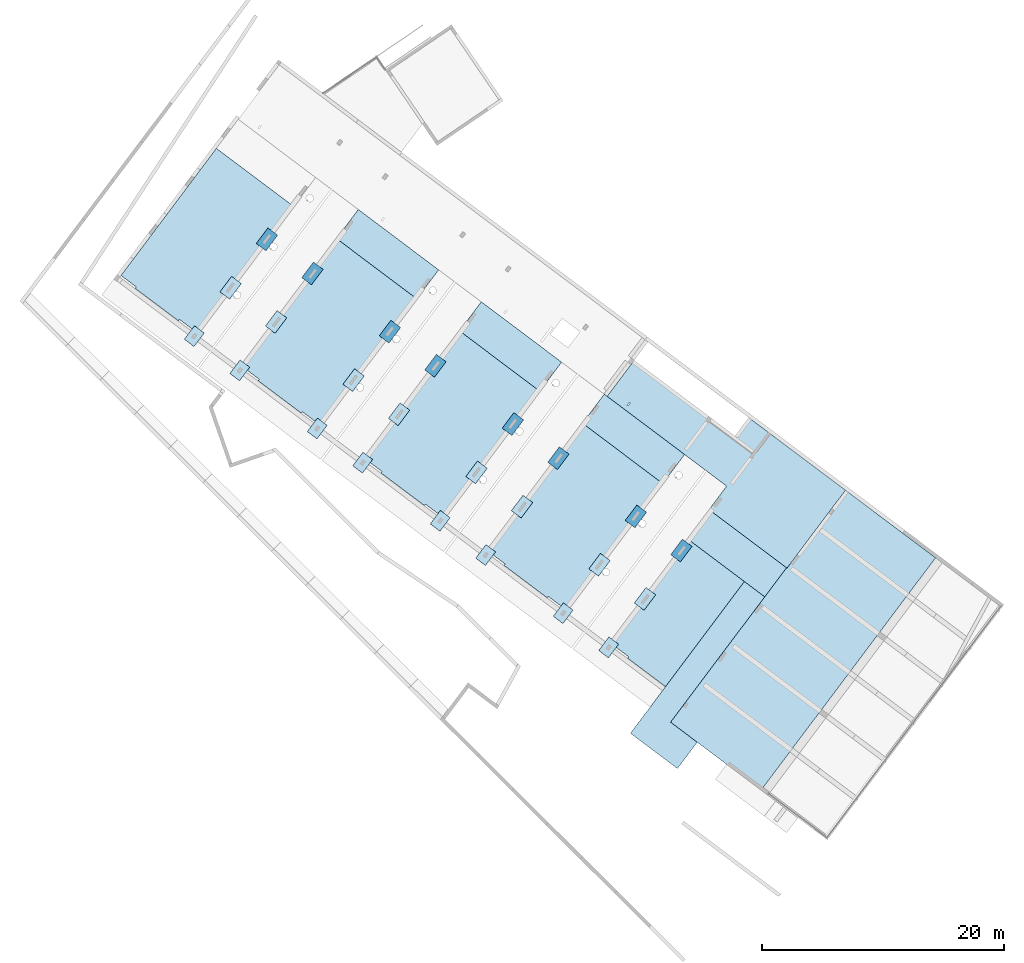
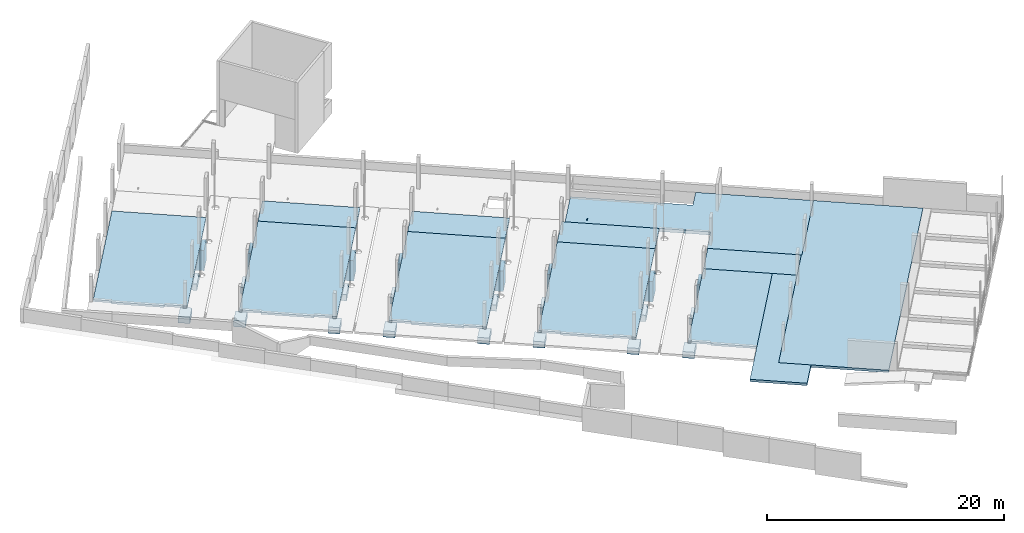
# One storey, part 20 of 24: 36 slabs, 1 opening.
"""IFC2X3 building model written with IfcOpenShell, lengths in metres."""

from ifc_helpers import new_model, entity, si_unit, converted_unit, derived_unit, direction, frame, frame_2d, origin, origin_2d_with_axis, place, context, subcontext, project, spatial, polyline, rectangle, outline, extrude, material, layer, layer_set, layer_usage, type_object, element, save


model = new_model("IFC2X3")

# Units and contexts
model_context = context("Model", 3, precision=1e-05, world=origin(), true_north=direction((6.123031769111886e-17, 1.0)))
body_context = subcontext(model_context, "Body", "Model", "MODEL_VIEW")
ifc_project = project(units=[si_unit("LENGTHUNIT", "METRE"), si_unit("AREAUNIT", "SQUARE_METRE"), si_unit("VOLUMEUNIT", "CUBIC_METRE"), converted_unit("PLANEANGLEUNIT", "DEGREE", entity("IfcRatioMeasure", 0.017453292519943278), si_unit("PLANEANGLEUNIT", "RADIAN"), dimensions=[0, 0, 0, 0, 0, 0, 0]), si_unit("MASSUNIT", "GRAM", prefix="KILO"), derived_unit("MASSDENSITYUNIT", [(si_unit("MASSUNIT", "GRAM", prefix="KILO"), 1), (si_unit("LENGTHUNIT", "METRE"), -3)]), derived_unit("IONCONCENTRATIONUNIT", [(si_unit("MASSUNIT", "GRAM", prefix="KILO"), 1), (si_unit("LENGTHUNIT", "METRE"), -3)]), derived_unit("MOMENTOFINERTIAUNIT", [(si_unit("LENGTHUNIT", "METRE"), 4)]), si_unit("TIMEUNIT", "SECOND"), si_unit("FREQUENCYUNIT", "HERTZ"), si_unit("THERMODYNAMICTEMPERATUREUNIT", "DEGREE_CELSIUS"), derived_unit("THERMALTRANSMITTANCEUNIT", [(si_unit("MASSUNIT", "GRAM", prefix="KILO"), 1), (si_unit("THERMODYNAMICTEMPERATUREUNIT", "KELVIN"), -1), (si_unit("TIMEUNIT", "SECOND"), -3)]), derived_unit("THERMALCONDUCTANCEUNIT", [(si_unit("MASSUNIT", "GRAM", prefix="KILO"), 1), (si_unit("THERMODYNAMICTEMPERATUREUNIT", "KELVIN"), -1), (si_unit("TIMEUNIT", "SECOND"), -3), (si_unit("LENGTHUNIT", "METRE"), 1)]), derived_unit("VOLUMETRICFLOWRATEUNIT", [(si_unit("LENGTHUNIT", "METRE"), 3), (si_unit("TIMEUNIT", "SECOND"), -1)]), derived_unit("MASSFLOWRATEUNIT", [(si_unit("MASSUNIT", "GRAM", prefix="KILO"), 1), (si_unit("TIMEUNIT", "SECOND"), -1)]), derived_unit("ROTATIONALFREQUENCYUNIT", [(si_unit("TIMEUNIT", "SECOND"), -1)]), si_unit("ELECTRICCURRENTUNIT", "AMPERE"), si_unit("ELECTRICVOLTAGEUNIT", "VOLT"), si_unit("POWERUNIT", "WATT"), si_unit("FORCEUNIT", "NEWTON", prefix="KILO"), si_unit("ILLUMINANCEUNIT", "LUX"), si_unit("LUMINOUSFLUXUNIT", "LUMEN"), si_unit("LUMINOUSINTENSITYUNIT", "CANDELA"), derived_unit("USERDEFINED", [(si_unit("MASSUNIT", "GRAM", prefix="KILO"), -1), (si_unit("LENGTHUNIT", "METRE"), -2), (si_unit("TIMEUNIT", "SECOND"), 3), (si_unit("LUMINOUSFLUXUNIT", "LUMEN"), 1)]), derived_unit("USERDEFINED", [(si_unit("MASSUNIT", "GRAM", prefix="KILO"), 1), (si_unit("TIMEUNIT", "SECOND"), -3), (si_unit("LENGTHUNIT", "METRE"), 3), (si_unit("ELECTRICCURRENTUNIT", "AMPERE"), -2)]), derived_unit("SOUNDPOWERUNIT", [(si_unit("MASSUNIT", "GRAM", prefix="KILO"), 1), (si_unit("TIMEUNIT", "SECOND"), -3), (si_unit("LENGTHUNIT", "METRE"), 2)]), derived_unit("SOUNDPRESSUREUNIT", [(si_unit("MASSUNIT", "GRAM", prefix="KILO"), 1), (si_unit("LENGTHUNIT", "METRE"), -1), (si_unit("TIMEUNIT", "SECOND"), -2)]), derived_unit("LINEARVELOCITYUNIT", [(si_unit("LENGTHUNIT", "METRE"), 1), (si_unit("TIMEUNIT", "SECOND"), -1)]), si_unit("PRESSUREUNIT", "PASCAL"), derived_unit("USERDEFINED", [(si_unit("MASSUNIT", "GRAM", prefix="KILO"), 1), (si_unit("LENGTHUNIT", "METRE"), -2), (si_unit("TIMEUNIT", "SECOND"), -2)]), derived_unit("LINEARFORCEUNIT", [(si_unit("MASSUNIT", "GRAM", prefix="KILO"), 1), (si_unit("TIMEUNIT", "SECOND"), -2)]), derived_unit("PLANARFORCEUNIT", [(si_unit("MASSUNIT", "GRAM", prefix="KILO"), 1), (si_unit("LENGTHUNIT", "METRE"), -1), (si_unit("TIMEUNIT", "SECOND"), -2)]), derived_unit("SPECIFICHEATCAPACITYUNIT", [(si_unit("THERMODYNAMICTEMPERATUREUNIT", "KELVIN"), -1), (si_unit("LENGTHUNIT", "METRE"), 2), (si_unit("TIMEUNIT", "SECOND"), -2)]), derived_unit("HEATINGVALUEUNIT", [(si_unit("LENGTHUNIT", "METRE"), 2), (si_unit("TIMEUNIT", "SECOND"), -2)]), derived_unit("VAPORPERMEABILITYUNIT", [(si_unit("LENGTHUNIT", "METRE"), -1), (si_unit("TIMEUNIT", "SECOND"), 1)]), derived_unit("DYNAMICVISCOSITYUNIT", [(si_unit("MASSUNIT", "GRAM", prefix="KILO"), 1), (si_unit("TIMEUNIT", "SECOND"), -1), (si_unit("LENGTHUNIT", "METRE"), -1)]), derived_unit("THERMALEXPANSIONCOEFFICIENTUNIT", [(si_unit("THERMODYNAMICTEMPERATUREUNIT", "KELVIN"), -1)]), derived_unit("MODULUSOFELASTICITYUNIT", [(si_unit("MASSUNIT", "GRAM", prefix="KILO"), 1), (si_unit("LENGTHUNIT", "METRE"), -1), (si_unit("TIMEUNIT", "SECOND"), -2)]), derived_unit("ISOTHERMALMOISTURECAPACITYUNIT", [(si_unit("LENGTHUNIT", "METRE"), 3), (si_unit("MASSUNIT", "GRAM", prefix="KILO"), -1)]), derived_unit("MOISTUREDIFFUSIVITYUNIT", [(si_unit("TIMEUNIT", "SECOND"), -1), (si_unit("LENGTHUNIT", "METRE"), 2)])], contexts=[model_context])

# Site, building, storey
site_placement = place(None, origin())
site = spatial("IfcSite", under=ifc_project, at=site_placement, Name="Default", CompositionType="ELEMENT")
building_placement = place(site_placement, frame((0.0, 0.0, 235.0), z_axis=(0.0, 0.0, 1.0), x_axis=(-0.7996477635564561, 0.6004693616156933, 0.0)))
building = spatial("IfcBuilding", under=site, at=building_placement, CompositionType="ELEMENT")
storey_placement = place(building_placement, origin())
storey = spatial("IfcBuildingStorey", under=building, at=storey_placement, Name="P0- Escola", CompositionType="ELEMENT", Elevation=0.0)

# Slab, opening
ifc_material_1 = material(Name="_Formigó- T1- STR")
ifc_layer_1 = layer(ifc_material_1, 0.32)
ifc_layer_set_1 = layer_set([ifc_layer_1], Name="Suelo:STR- L- Formigó- Llosa- T1- 32 cm")
ifc_layer_usage_1 = layer_usage(ifc_layer_set_1, "AXIS3", "POSITIVE", 0.0)
slab_type_1 = type_object("IfcSlabType", Name="Suelo:STR- L- Formigó- Llosa- T1- 32 cm", PredefinedType="FLOOR", material=ifc_layer_set_1)
slab_1_placement = place(storey_placement, frame((15.945147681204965, -42.04019175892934, -0.52)))
slab_1 = element("IfcSlab", 1, at=slab_1_placement, inside=storey, type_object=slab_type_1, material=ifc_layer_usage_1, Name="Suelo:STR- L- Formigó- Llosa- T1- 32 cm", ObjectType="Suelo:STR- L- Formigó- Llosa- T1- 32 cm", PredefinedType="FLOOR", context=body_context, shape_type="SweptSolid", body=[
    extrude(outline(polyline([(10.199999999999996, 4.0254939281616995), (2.1503421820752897, 4.025493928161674), (2.150342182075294, 1.5995060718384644), (-10.200000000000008, 1.599506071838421), (-10.200000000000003, -2.125493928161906), (0.20000000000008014, -2.12549392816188), (0.20000000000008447, -4.025493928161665), (10.199999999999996, -4.02549392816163), (10.199999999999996, 4.0254939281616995)])), frame((10.2, 4.025493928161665, 0.32), z_axis=(0.0, 0.0, -1.0), x_axis=(-1.0, 0.0, 0.0)), (0.0, 0.0, 1.0), 0.32),
])
opening_placement = place(slab_1_placement, origin())
element("IfcOpeningElement", 2, at=opening_placement, cuts=slab_1, Name="Suelo:STR- L- Formigó- Llosa- T1- 32 cm", ObjectType="Opening", context=body_context, shape_type="SweptSolid", body=[
    extrude(rectangle(XDim=0.08500000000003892, YDim=0.3000000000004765, at=frame_2d((0.0, 2.1649348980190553e-15), x_axis=(1.0, 0.0))), frame((18.59127795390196, 5.067860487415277, 0.32), z_axis=(0.0, 0.0, -1.0), x_axis=(1.0, -8.103684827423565e-07, 0.0)), (0.0, 0.0, 1.0), 0.31999999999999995),
])

# Slabs
ifc_layer_2 = layer(ifc_material_1, 0.24)
ifc_layer_set_2 = layer_set([ifc_layer_2], Name="Suelo:STR- L- Formigó- Llosa- T1- 24 cm")
ifc_layer_usage_2 = layer_usage(ifc_layer_set_2, "AXIS3", "POSITIVE", 0.0)
slab_type_2 = type_object("IfcSlabType", Name="Suelo:STR- L- Formigó- Llosa- T1- 24 cm", PredefinedType="FLOOR", material=ifc_layer_set_2)
slab_2_placement = place(storey_placement, origin())
element("IfcSlab", 3, at=slab_2_placement, inside=storey, type_object=slab_type_2, material=ifc_layer_usage_2, Name="Suelo:STR- L- Formigó- Llosa- T1- 24 cm", ObjectType="Suelo:STR- L- Formigó- Llosa- T1- 24 cm", PredefinedType="FLOOR", context=body_context, shape_type="SweptSolid", body=[
    extrude(outline(polyline([(-10.683662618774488, -6.216666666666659), (13.316337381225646, -6.216666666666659), (13.316337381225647, 3.1333333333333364), (-2.6326747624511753, 3.1333333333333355), (-2.6326747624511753, 3.083333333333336), (-10.683662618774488, 3.0833333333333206), (-10.683662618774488, -6.216666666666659)])), frame((12.86181434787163, -31.356529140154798, -0.2), z_axis=(0.0, 0.0, -1.0), x_axis=(0.0, 1.0, 0.0)), (0.0, 0.0, 1.0), 0.24),
])
ifc_material_2 = material(Name="_Formigó- Solera- T1- STR")
ifc_layer_3 = layer(ifc_material_2, 0.2)
ifc_layer_set_3 = layer_set([ifc_layer_3], Name="Suelo:STR- L- Formigó- Solera- T1- 20 cm")
ifc_layer_usage_3 = layer_usage(ifc_layer_set_3, "AXIS3", "POSITIVE", 0.0)
slab_type_3 = type_object("IfcSlabType", Name="Suelo:STR- L- Formigó- Solera- T1- 20 cm", PredefinedType="FLOOR", material=ifc_layer_set_3)
slab_3_placement = place(storey_placement, origin())
element("IfcSlab", 4, at=slab_3_placement, inside=storey, type_object=slab_type_3, material=ifc_layer_usage_3, Name="Suelo:STR- L- Formigó- Solera- T1- 20 cm", ObjectType="Suelo:STR- L- Formigó- Solera- T1- 20 cm", PredefinedType="FLOOR", context=body_context, shape_type="SweptSolid", body=[
    extrude(outline(polyline([(-7.184341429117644, -3.2500000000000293), (3.664670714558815, -3.2500000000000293), (3.664670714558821, 0.650000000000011), (3.519670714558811, 0.6500000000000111), (3.519670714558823, 2.60000000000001), (-7.184341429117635, 2.6000000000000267), (-7.184341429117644, -3.2500000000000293)])), frame((21.34514768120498, -23.80486247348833, -0.2), z_axis=(0.0, 0.0, -1.0), x_axis=(0.0, 1.0, 0.0)), (0.0, 0.0, 1.0), 0.2),
])
slab_4_placement = place(storey_placement, origin())
element("IfcSlab", 5, at=slab_4_placement, inside=storey, type_object=slab_type_3, material=ifc_layer_usage_3, Name="Suelo:STR- L- Formigó- Solera- T1- 20 cm", ObjectType="Suelo:STR- L- Formigó- Solera- T1- 20 cm", PredefinedType="FLOOR", context=body_context, shape_type="SweptSolid", body=[
    extrude(outline(polyline([(-9.88374999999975, -4.1687500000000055), (3.246249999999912, -4.1687500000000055), (3.2462499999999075, -2.2137500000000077), (3.3912499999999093, -2.2137500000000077), (3.3912499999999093, 2.2512499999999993), (3.2462499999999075, 2.2512499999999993), (3.2462499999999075, 4.131249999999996), (-9.88374999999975, 4.131249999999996), (-9.88374999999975, -4.1687500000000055)])), frame((32.51389768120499, -23.53144175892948, -0.2), z_axis=(0.0, 0.0, -1.0), x_axis=(0.0, 1.0, 0.0)), (0.0, 0.0, 1.0), 0.2),
])
slab_5_placement = place(storey_placement, origin())
element("IfcSlab", 6, at=slab_5_placement, inside=storey, type_object=slab_type_3, material=ifc_layer_usage_3, Name="Suelo:STR- L- Formigó- Solera- T1- 20 cm", ObjectType="Suelo:STR- L- Formigó- Solera- T1- 20 cm", PredefinedType="FLOOR", context=body_context, shape_type="SweptSolid", body=[
    extrude(outline(polyline([(-9.883749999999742, -4.168750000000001), (3.246249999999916, -4.168750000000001), (3.246249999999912, -2.2137500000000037), (3.3912499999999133, -2.2137500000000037), (3.3912499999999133, 2.2512500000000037), (3.246249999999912, 2.2512500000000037), (3.246249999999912, 4.1312500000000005), (-9.883749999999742, 4.1312500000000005), (-9.883749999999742, -4.168750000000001)])), frame((45.21389768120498, -23.531441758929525, -0.2), z_axis=(0.0, 0.0, -1.0), x_axis=(0.0, 1.0, 0.0)), (0.0, 0.0, 1.0), 0.2),
])
slab_6_placement = place(storey_placement, origin())
element("IfcSlab", 7, at=slab_6_placement, inside=storey, type_object=slab_type_3, material=ifc_layer_usage_3, Name="Suelo:STR- L- Formigó- Solera- T1- 20 cm", ObjectType="Suelo:STR- L- Formigó- Solera- T1- 20 cm", PredefinedType="FLOOR", context=body_context, shape_type="SweptSolid", body=[
    extrude(outline(polyline([(-9.883749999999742, -4.168750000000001), (3.246249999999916, -4.168750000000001), (3.246249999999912, -2.2137500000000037), (3.3912499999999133, -2.2137500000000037), (3.3912499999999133, 2.2512500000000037), (3.246249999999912, 2.2512500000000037), (3.246249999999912, 4.1312500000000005), (-9.883749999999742, 4.1312500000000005), (-9.883749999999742, -4.168750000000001)])), frame((57.91389768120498, -23.531441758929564, -0.2), z_axis=(0.0, 0.0, -1.0), x_axis=(0.0, 1.0, 0.0)), (0.0, 0.0, 1.0), 0.2),
])
slab_7_placement = place(storey_placement, origin())
element("IfcSlab", 8, at=slab_7_placement, inside=storey, type_object=slab_type_3, material=ifc_layer_usage_3, Name="Suelo:STR- L- Formigó- Solera- T1- 20 cm", ObjectType="Suelo:STR- L- Formigó- Solera- T1- 20 cm", PredefinedType="FLOOR", context=body_context, shape_type="SweptSolid", body=[
    extrude(outline(polyline([(-9.883749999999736, -4.093749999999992), (3.2462499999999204, -4.093749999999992), (3.246249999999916, -2.1387499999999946), (3.3912499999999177, -2.1387499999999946), (3.3912499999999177, 2.326250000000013), (3.246249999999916, 2.326250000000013), (3.246249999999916, 3.9062500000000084), (-9.883749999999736, 3.9062500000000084), (-9.883749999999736, -4.093749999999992)])), frame((70.53889768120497, -23.531441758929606, -0.2), z_axis=(0.0, 0.0, -1.0), x_axis=(0.0, 1.0, 0.0)), (0.0, 0.0, 1.0), 0.2),
])
slab_type_4 = type_object("IfcSlabType", Name="STR- S- Formigó- Rectangular- T1:100x140x60 cm", PredefinedType="BASESLAB", material=ifc_material_1)
slab_8_placement = place(storey_placement, frame((23.295147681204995, -20.615191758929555, -1.219999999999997)))
element("IfcSlab", 9, at=slab_8_placement, inside=storey, type_object=slab_type_4, Name="STR- S- Formigó- Rectangular- T1:100x140x60 cm", ObjectType="STR- S- Formigó- Rectangular- T1:100x140x60 cm", PredefinedType="BASESLAB", context=body_context, shape_type="SweptSolid", body=[
    extrude(rectangle(XDim=0.9999999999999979, YDim=1.399999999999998, at=frame_2d((0.0, -0.13999999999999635), x_axis=(1.0, 0.0))), frame((0.49999999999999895, 0.5599999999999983, 0.049999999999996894), z_axis=(0.0, 0.0, 1.0), x_axis=(-1.0, 0.0, 0.0)), (0.0, 0.0, 1.0), 0.6),
    extrude(rectangle(XDim=0.9999999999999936, YDim=1.3999999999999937, at=frame_2d((2.1649348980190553e-15, 0.13999999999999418), x_axis=(1.0, 0.0))), frame((0.49999999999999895, 0.5600000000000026, 0.0)), (0.0, 0.0, 1.0), 0.04999999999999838),
])
slab_9_placement = place(storey_placement, frame((35.99514768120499, -20.615191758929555, -1.219999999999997)))
element("IfcSlab", 10, at=slab_9_placement, inside=storey, type_object=slab_type_4, Name="STR- S- Formigó- Rectangular- T1:100x140x60 cm", ObjectType="STR- S- Formigó- Rectangular- T1:100x140x60 cm", PredefinedType="BASESLAB", context=body_context, shape_type="SweptSolid", body=[
    extrude(rectangle(XDim=0.9999999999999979, YDim=1.399999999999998, at=frame_2d((0.0, -0.14000000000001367), x_axis=(1.0, 0.0))), frame((0.49999999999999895, 0.559999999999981, 0.049999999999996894), z_axis=(0.0, 0.0, 1.0), x_axis=(-1.0, 0.0, 0.0)), (0.0, 0.0, 1.0), 0.6),
    extrude(rectangle(XDim=0.9999999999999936, YDim=1.3999999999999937, at=frame_2d((2.1649348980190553e-15, 0.14000000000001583), x_axis=(1.0, 0.0))), frame((0.49999999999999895, 0.559999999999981, 0.0)), (0.0, 0.0, 1.0), 0.04999999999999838),
])
slab_10_placement = place(storey_placement, frame((40.69514768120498, -20.615191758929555, -1.219999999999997)))
element("IfcSlab", 11, at=slab_10_placement, inside=storey, type_object=slab_type_4, Name="STR- S- Formigó- Rectangular- T1:100x140x60 cm", ObjectType="STR- S- Formigó- Rectangular- T1:100x140x60 cm", PredefinedType="BASESLAB", context=body_context, shape_type="SweptSolid", body=[
    extrude(rectangle(XDim=0.9999999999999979, YDim=1.399999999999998, at=frame_2d((0.0, -0.14000000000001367), x_axis=(1.0, 0.0))), frame((0.49999999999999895, 0.559999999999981, 0.049999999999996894), z_axis=(0.0, 0.0, 1.0), x_axis=(-1.0, 0.0, 0.0)), (0.0, 0.0, 1.0), 0.6),
    extrude(rectangle(XDim=0.9999999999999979, YDim=1.3999999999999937, at=frame_2d((0.0, 0.14000000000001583), x_axis=(1.0, 0.0))), frame((0.49999999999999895, 0.559999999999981, 0.0)), (0.0, 0.0, 1.0), 0.04999999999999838),
])
slab_11_placement = place(storey_placement, frame((48.69514768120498, -20.615191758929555, -1.219999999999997)))
element("IfcSlab", 12, at=slab_11_placement, inside=storey, type_object=slab_type_4, Name="STR- S- Formigó- Rectangular- T1:100x140x60 cm", ObjectType="STR- S- Formigó- Rectangular- T1:100x140x60 cm", PredefinedType="BASESLAB", context=body_context, shape_type="SweptSolid", body=[
    extrude(rectangle(XDim=0.999999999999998, YDim=1.399999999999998, at=frame_2d((8.68749516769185e-15, -0.14000000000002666), x_axis=(1.0, 0.0))), frame((0.5000000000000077, 0.559999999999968, 0.049999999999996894), z_axis=(0.0, 0.0, 1.0), x_axis=(-1.0, 0.0, 0.0)), (0.0, 0.0, 1.0), 0.6),
    extrude(rectangle(XDim=0.999999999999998, YDim=1.3999999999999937, at=frame_2d((8.68749516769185e-15, 0.14000000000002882), x_axis=(1.0, 0.0))), frame((0.4999999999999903, 0.559999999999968, 0.0)), (0.0, 0.0, 1.0), 0.04999999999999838),
])
slab_12_placement = place(storey_placement, frame((53.39514768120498, -20.615191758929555, -1.219999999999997)))
element("IfcSlab", 13, at=slab_12_placement, inside=storey, type_object=slab_type_4, Name="STR- S- Formigó- Rectangular- T1:100x140x60 cm", ObjectType="STR- S- Formigó- Rectangular- T1:100x140x60 cm", PredefinedType="BASESLAB", context=body_context, shape_type="SweptSolid", body=[
    extrude(rectangle(XDim=0.9999999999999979, YDim=1.399999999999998, at=frame_2d((0.0, -0.140000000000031), x_axis=(1.0, 0.0))), frame((0.49999999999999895, 0.5599999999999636, 0.049999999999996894), z_axis=(0.0, 0.0, 1.0), x_axis=(-1.0, 0.0, 0.0)), (0.0, 0.0, 1.0), 0.6),
    extrude(rectangle(XDim=0.9999999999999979, YDim=1.3999999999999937, at=frame_2d((0.0, 0.14000000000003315), x_axis=(1.0, 0.0))), frame((0.49999999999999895, 0.5599999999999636, 0.0)), (0.0, 0.0, 1.0), 0.04999999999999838),
])
slab_13_placement = place(storey_placement, frame((61.39514768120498, -20.615191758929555, -1.219999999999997)))
element("IfcSlab", 14, at=slab_13_placement, inside=storey, type_object=slab_type_4, Name="STR- S- Formigó- Rectangular- T1:100x140x60 cm", ObjectType="STR- S- Formigó- Rectangular- T1:100x140x60 cm", PredefinedType="BASESLAB", context=body_context, shape_type="SweptSolid", body=[
    extrude(rectangle(XDim=0.999999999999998, YDim=1.399999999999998, at=frame_2d((-8.68749516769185e-15, -0.14000000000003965), x_axis=(1.0, 0.0))), frame((0.4999999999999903, 0.559999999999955, 0.049999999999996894), z_axis=(0.0, 0.0, 1.0), x_axis=(-1.0, 0.0, 0.0)), (0.0, 0.0, 1.0), 0.6),
    extrude(rectangle(XDim=0.9999999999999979, YDim=1.3999999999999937, at=frame_2d((0.0, 0.14000000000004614), x_axis=(1.0, 0.0))), frame((0.49999999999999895, 0.5599999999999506, 0.0)), (0.0, 0.0, 1.0), 0.04999999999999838),
])
slab_14_placement = place(storey_placement, frame((66.09514768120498, -20.615191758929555, -1.219999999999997)))
element("IfcSlab", 15, at=slab_14_placement, inside=storey, type_object=slab_type_4, Name="STR- S- Formigó- Rectangular- T1:100x140x60 cm", ObjectType="STR- S- Formigó- Rectangular- T1:100x140x60 cm", PredefinedType="BASESLAB", context=body_context, shape_type="SweptSolid", body=[
    extrude(rectangle(XDim=0.999999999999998, YDim=1.399999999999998, at=frame_2d((8.68749516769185e-15, -0.1400000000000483), x_axis=(1.0, 0.0))), frame((0.5000000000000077, 0.5599999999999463, 0.049999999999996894), z_axis=(0.0, 0.0, 1.0), x_axis=(-1.0, 0.0, 0.0)), (0.0, 0.0, 1.0), 0.6),
    extrude(rectangle(XDim=0.999999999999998, YDim=1.3999999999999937, at=frame_2d((-2.6006974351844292e-14, 0.14000000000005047), x_axis=(1.0, 0.0))), frame((0.500000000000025, 0.5599999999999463, 0.0)), (0.0, 0.0, 1.0), 0.04999999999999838),
])
slab_15_placement = place(storey_placement, frame((27.995147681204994, -20.615191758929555, -1.219999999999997)))
element("IfcSlab", 16, at=slab_15_placement, inside=storey, type_object=slab_type_4, Name="STR- S- Formigó- Rectangular- T1:100x140x60 cm", ObjectType="STR- S- Formigó- Rectangular- T1:100x140x60 cm", PredefinedType="BASESLAB", context=body_context, shape_type="SweptSolid", body=[
    extrude(rectangle(XDim=0.999999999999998, YDim=1.399999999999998, at=frame_2d((4.3576253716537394e-15, -0.13999999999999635), x_axis=(1.0, 0.0))), frame((0.5000000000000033, 0.5599999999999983, 0.049999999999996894), z_axis=(0.0, 0.0, 1.0), x_axis=(-1.0, 0.0, 0.0)), (0.0, 0.0, 1.0), 0.6),
    extrude(rectangle(XDim=0.9999999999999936, YDim=1.3999999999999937, at=frame_2d((-6.522560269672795e-15, 0.14000000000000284), x_axis=(1.0, 0.0))), frame((0.5000000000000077, 0.559999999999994, 0.0)), (0.0, 0.0, 1.0), 0.04999999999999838),
])
slab_type_5 = type_object("IfcSlabType", Name="STR- S- Formigó- Rectangular- T1:100x160x60 cm", PredefinedType="BASESLAB", material=ifc_material_1)
slab_16_placement = place(storey_placement, frame((23.295147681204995, -25.71519175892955, -1.219999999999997)))
element("IfcSlab", 17, at=slab_16_placement, inside=storey, type_object=slab_type_5, Name="STR- S- Formigó- Rectangular- T1:100x160x60 cm", ObjectType="STR- S- Formigó- Rectangular- T1:100x160x60 cm", PredefinedType="BASESLAB", context=body_context, shape_type="SweptSolid", body=[
    extrude(rectangle(XDim=0.9999999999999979, YDim=1.6, at=origin_2d_with_axis()), frame((0.49999999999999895, 0.8000000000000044, 0.049999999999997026), z_axis=(0.0, 0.0, 1.0), x_axis=(-1.0, 0.0, 0.0)), (0.0, 0.0, 1.0), 0.6),
    extrude(rectangle(XDim=1.0000000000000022, YDim=1.6000000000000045, at=frame_2d((0.0, 4.3298697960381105e-15), x_axis=(1.0, 0.0))), frame((0.5000000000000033, 0.8, 0.0)), (0.0, 0.0, 1.0), 0.04999999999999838),
])
slab_17_placement = place(storey_placement, frame((27.995147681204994, -25.71519175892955, -1.219999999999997)))
element("IfcSlab", 18, at=slab_17_placement, inside=storey, type_object=slab_type_5, Name="STR- S- Formigó- Rectangular- T1:100x160x60 cm", ObjectType="STR- S- Formigó- Rectangular- T1:100x160x60 cm", PredefinedType="BASESLAB", context=body_context, shape_type="SweptSolid", body=[
    extrude(rectangle(XDim=0.9999999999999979, YDim=1.6, at=origin_2d_with_axis()), frame((0.49999999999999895, 0.8000000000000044, 0.049999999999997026), z_axis=(0.0, 0.0, 1.0), x_axis=(-1.0, 0.0, 0.0)), (0.0, 0.0, 1.0), 0.6),
    extrude(rectangle(XDim=1.0000000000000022, YDim=1.6000000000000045, at=frame_2d((-4.3576253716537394e-15, 4.3298697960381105e-15), x_axis=(1.0, 0.0))), frame((0.5000000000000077, 0.8, 0.0)), (0.0, 0.0, 1.0), 0.04999999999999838),
])
slab_18_placement = place(storey_placement, frame((35.99514768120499, -25.71519175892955, -1.219999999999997)))
element("IfcSlab", 19, at=slab_18_placement, inside=storey, type_object=slab_type_5, Name="STR- S- Formigó- Rectangular- T1:100x160x60 cm", ObjectType="STR- S- Formigó- Rectangular- T1:100x160x60 cm", PredefinedType="BASESLAB", context=body_context, shape_type="SweptSolid", body=[
    extrude(rectangle(XDim=0.9999999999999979, YDim=1.6, at=origin_2d_with_axis()), frame((0.49999999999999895, 0.8000000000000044, 0.049999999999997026), z_axis=(0.0, 0.0, 1.0), x_axis=(-1.0, 0.0, 0.0)), (0.0, 0.0, 1.0), 0.6),
    extrude(rectangle(XDim=1.0000000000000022, YDim=1.6000000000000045, at=frame_2d((0.0, 4.3298697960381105e-15), x_axis=(1.0, 0.0))), frame((0.5000000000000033, 0.8, 0.0)), (0.0, 0.0, 1.0), 0.04999999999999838),
])
slab_19_placement = place(storey_placement, frame((40.695147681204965, -25.71519175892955, -1.219999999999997)))
element("IfcSlab", 20, at=slab_19_placement, inside=storey, type_object=slab_type_5, Name="STR- S- Formigó- Rectangular- T1:100x160x60 cm", ObjectType="STR- S- Formigó- Rectangular- T1:100x160x60 cm", PredefinedType="BASESLAB", context=body_context, shape_type="SweptSolid", body=[
    extrude(rectangle(XDim=0.9999999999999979, YDim=1.6, at=origin_2d_with_axis()), frame((0.5000000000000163, 0.8000000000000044, 0.049999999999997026), z_axis=(0.0, 0.0, 1.0), x_axis=(-1.0, 0.0, 0.0)), (0.0, 0.0, 1.0), 0.6),
    extrude(rectangle(XDim=0.999999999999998, YDim=1.6000000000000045, at=frame_2d((-4.3576253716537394e-15, 4.3298697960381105e-15), x_axis=(1.0, 0.0))), frame((0.5000000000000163, 0.8, 0.0)), (0.0, 0.0, 1.0), 0.04999999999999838),
])
slab_20_placement = place(storey_placement, frame((48.695147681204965, -25.71519175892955, -1.219999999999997)))
element("IfcSlab", 21, at=slab_20_placement, inside=storey, type_object=slab_type_5, Name="STR- S- Formigó- Rectangular- T1:100x160x60 cm", ObjectType="STR- S- Formigó- Rectangular- T1:100x160x60 cm", PredefinedType="BASESLAB", context=body_context, shape_type="SweptSolid", body=[
    extrude(rectangle(XDim=0.9999999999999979, YDim=1.6, at=origin_2d_with_axis()), frame((0.5000000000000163, 0.8000000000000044, 0.049999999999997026), z_axis=(0.0, 0.0, 1.0), x_axis=(-1.0, 0.0, 0.0)), (0.0, 0.0, 1.0), 0.6),
    extrude(rectangle(XDim=0.9999999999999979, YDim=1.6000000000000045, at=frame_2d((4.3576253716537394e-15, 4.3298697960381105e-15), x_axis=(1.0, 0.0))), frame((0.5000000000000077, 0.8, 0.0)), (0.0, 0.0, 1.0), 0.04999999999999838),
])
slab_21_placement = place(storey_placement, frame((53.39514768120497, -25.71519175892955, -1.219999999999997)))
element("IfcSlab", 22, at=slab_21_placement, inside=storey, type_object=slab_type_5, Name="STR- S- Formigó- Rectangular- T1:100x160x60 cm", ObjectType="STR- S- Formigó- Rectangular- T1:100x160x60 cm", PredefinedType="BASESLAB", context=body_context, shape_type="SweptSolid", body=[
    extrude(rectangle(XDim=0.9999999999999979, YDim=1.6, at=origin_2d_with_axis()), frame((0.5000000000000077, 0.8000000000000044, 0.049999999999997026), z_axis=(0.0, 0.0, 1.0), x_axis=(-1.0, 0.0, 0.0)), (0.0, 0.0, 1.0), 0.6),
    extrude(rectangle(XDim=0.999999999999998, YDim=1.6000000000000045, at=frame_2d((-4.3576253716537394e-15, 4.3298697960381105e-15), x_axis=(1.0, 0.0))), frame((0.5000000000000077, 0.8, 0.0)), (0.0, 0.0, 1.0), 0.04999999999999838),
])
slab_22_placement = place(storey_placement, frame((61.395147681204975, -25.71519175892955, -1.219999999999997)))
element("IfcSlab", 23, at=slab_22_placement, inside=storey, type_object=slab_type_5, Name="STR- S- Formigó- Rectangular- T1:100x160x60 cm", ObjectType="STR- S- Formigó- Rectangular- T1:100x160x60 cm", PredefinedType="BASESLAB", context=body_context, shape_type="SweptSolid", body=[
    extrude(rectangle(XDim=0.999999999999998, YDim=1.6, at=frame_2d((-8.68749516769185e-15, 0.0), x_axis=(1.0, 0.0))), frame((0.49999999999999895, 0.8000000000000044, 0.049999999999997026), z_axis=(0.0, 0.0, 1.0), x_axis=(-1.0, 0.0, 0.0)), (0.0, 0.0, 1.0), 0.6),
    extrude(rectangle(XDim=0.999999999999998, YDim=1.6000000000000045, at=frame_2d((-4.3576253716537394e-15, 4.3298697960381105e-15), x_axis=(1.0, 0.0))), frame((0.5000000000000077, 0.8, 0.0)), (0.0, 0.0, 1.0), 0.04999999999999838),
])
slab_23_placement = place(storey_placement, frame((66.09514768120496, -25.71519175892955, -1.219999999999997)))
element("IfcSlab", 24, at=slab_23_placement, inside=storey, type_object=slab_type_5, Name="STR- S- Formigó- Rectangular- T1:100x160x60 cm", ObjectType="STR- S- Formigó- Rectangular- T1:100x160x60 cm", PredefinedType="BASESLAB", context=body_context, shape_type="SweptSolid", body=[
    extrude(rectangle(XDim=0.999999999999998, YDim=1.6, at=frame_2d((8.68749516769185e-15, 0.0), x_axis=(1.0, 0.0))), frame((0.500000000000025, 0.8000000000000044, 0.049999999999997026), z_axis=(0.0, 0.0, 1.0), x_axis=(-1.0, 0.0, 0.0)), (0.0, 0.0, 1.0), 0.6),
    extrude(rectangle(XDim=0.999999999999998, YDim=1.6000000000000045, at=frame_2d((-4.3576253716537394e-15, 4.3298697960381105e-15), x_axis=(1.0, 0.0))), frame((0.5000000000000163, 0.8, 0.0)), (0.0, 0.0, 1.0), 0.04999999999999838),
])
slab_type_6 = type_object("IfcSlabType", Name="STR- S- Formigó- Rectangular+pou- T1:100x160x60 cm", PredefinedType="BASESLAB", material=ifc_material_1)
slab_24_placement = place(storey_placement, frame((23.29514768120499, -30.715191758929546, -2.6699999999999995)))
element("IfcSlab", 25, at=slab_24_placement, inside=storey, type_object=slab_type_6, Name="STR- S- Formigó- Rectangular+pou- T1:100x160x60 cm", ObjectType="STR- S- Formigó- Rectangular+pou- T1:100x160x60 cm", PredefinedType="BASESLAB", context=body_context, shape_type="SweptSolid", body=[
    extrude(rectangle(XDim=0.999999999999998, YDim=1.6, at=frame_2d((-2.192690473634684e-15, -4.3298697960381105e-15), x_axis=(1.0, 0.0))), frame((0.5000000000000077, 0.8000000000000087, 1.4999999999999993)), (0.0, 0.0, 1.0), 0.6),
    extrude(rectangle(XDim=1.0000000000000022, YDim=1.6000000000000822, at=frame_2d((0.0, 2.1649348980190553e-15), x_axis=(1.0, 0.0))), frame((0.5000000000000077, 0.8000000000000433, 0.0)), (0.0, 0.0, 1.0), 1.4999999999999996),
])
slab_25_placement = place(storey_placement, frame((27.995147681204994, -30.71519175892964, -2.6699999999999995)))
element("IfcSlab", 26, at=slab_25_placement, inside=storey, type_object=slab_type_6, Name="STR- S- Formigó- Rectangular+pou- T1:100x160x60 cm", ObjectType="STR- S- Formigó- Rectangular+pou- T1:100x160x60 cm", PredefinedType="BASESLAB", context=body_context, shape_type="SweptSolid", body=[
    extrude(rectangle(XDim=0.9999999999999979, YDim=1.6, at=origin_2d_with_axis()), frame((0.49999999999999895, 0.800000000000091, 1.4999999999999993), z_axis=(0.0, 0.0, 1.0), x_axis=(-1.0, 0.0, 0.0)), (0.0, 0.0, 1.0), 0.6),
    extrude(rectangle(XDim=1.0000000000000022, YDim=1.6000000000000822, at=frame_2d((2.192690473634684e-15, 2.1649348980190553e-15), x_axis=(1.0, 0.0))), frame((0.49999999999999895, 0.8000000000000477, 0.0), z_axis=(0.0, 0.0, 1.0), x_axis=(-1.0, 0.0, 0.0)), (0.0, 0.0, 1.0), 1.4999999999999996),
])
slab_26_placement = place(storey_placement, frame((35.99514768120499, -30.715191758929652, -2.6699999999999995)))
element("IfcSlab", 27, at=slab_26_placement, inside=storey, type_object=slab_type_6, Name="STR- S- Formigó- Rectangular+pou- T1:100x160x60 cm", ObjectType="STR- S- Formigó- Rectangular+pou- T1:100x160x60 cm", PredefinedType="BASESLAB", context=body_context, shape_type="SweptSolid", body=[
    extrude(rectangle(XDim=0.9999999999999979, YDim=1.6, at=origin_2d_with_axis()), frame((0.49999999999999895, 0.8000000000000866, 1.4999999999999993), z_axis=(0.0, 0.0, 1.0), x_axis=(-1.0, 0.0, 0.0)), (0.0, 0.0, 1.0), 0.6),
    extrude(rectangle(XDim=1.0000000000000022, YDim=1.6000000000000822, at=frame_2d((2.192690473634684e-15, -2.1649348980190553e-15), x_axis=(1.0, 0.0))), frame((0.49999999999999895, 0.8000000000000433, 0.0), z_axis=(0.0, 0.0, 1.0), x_axis=(-1.0, 0.0, 0.0)), (0.0, 0.0, 1.0), 1.4999999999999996),
])
for number, where in (
    (28, (40.69514768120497, -30.71519175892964, -2.6699999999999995)),
    (29, (48.69514768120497, -30.71519175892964, -2.6699999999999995)),
    (30, (53.39514768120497, -30.71519175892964, -2.6699999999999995)),
):
    element("IfcSlab", number, at=place(storey_placement, frame(where)), inside=storey, type_object=slab_type_6, Name="STR- S- Formigó- Rectangular+pou- T1:100x160x60 cm", ObjectType="STR- S- Formigó- Rectangular+pou- T1:100x160x60 cm", PredefinedType="BASESLAB", context=body_context, shape_type="SweptSolid", body=[
        extrude(rectangle(XDim=0.9999999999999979, YDim=1.6, at=origin_2d_with_axis()), frame((0.5000000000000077, 0.800000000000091, 1.4999999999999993), z_axis=(0.0, 0.0, 1.0), x_axis=(-1.0, 0.0, 0.0)), (0.0, 0.0, 1.0), 0.6),
        extrude(rectangle(XDim=0.9999999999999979, YDim=1.6000000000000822, at=frame_2d((0.0, 2.1649348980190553e-15), x_axis=(1.0, 0.0))), frame((0.49999999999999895, 0.8000000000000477, 0.0), z_axis=(0.0, 0.0, 1.0), x_axis=(-1.0, 0.0, 0.0)), (0.0, 0.0, 1.0), 1.4999999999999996),
    ])
slab_27_placement = place(storey_placement, frame((61.395147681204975, -30.71519175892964, -2.6699999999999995)))
element("IfcSlab", 31, at=slab_27_placement, inside=storey, type_object=slab_type_6, Name="STR- S- Formigó- Rectangular+pou- T1:100x160x60 cm", ObjectType="STR- S- Formigó- Rectangular+pou- T1:100x160x60 cm", PredefinedType="BASESLAB", context=body_context, shape_type="SweptSolid", body=[
    extrude(rectangle(XDim=0.999999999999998, YDim=1.6, at=frame_2d((-8.68749516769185e-15, 0.0), x_axis=(1.0, 0.0))), frame((0.49999999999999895, 0.800000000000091, 1.4999999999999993), z_axis=(0.0, 0.0, 1.0), x_axis=(-1.0, 0.0, 0.0)), (0.0, 0.0, 1.0), 0.6),
    extrude(rectangle(XDim=0.999999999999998, YDim=1.6000000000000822, at=frame_2d((-8.68749516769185e-15, 2.1649348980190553e-15), x_axis=(1.0, 0.0))), frame((0.4999999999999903, 0.8000000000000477, 0.0), z_axis=(0.0, 0.0, 1.0), x_axis=(-1.0, 0.0, 0.0)), (0.0, 0.0, 1.0), 1.4999999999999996),
])
slab_28_placement = place(storey_placement, frame((66.09514768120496, -30.71519175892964, -2.6699999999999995)))
element("IfcSlab", 32, at=slab_28_placement, inside=storey, type_object=slab_type_6, Name="STR- S- Formigó- Rectangular+pou- T1:100x160x60 cm", ObjectType="STR- S- Formigó- Rectangular+pou- T1:100x160x60 cm", PredefinedType="BASESLAB", context=body_context, shape_type="SweptSolid", body=[
    extrude(rectangle(XDim=0.999999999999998, YDim=1.6, at=frame_2d((8.68749516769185e-15, 0.0), x_axis=(1.0, 0.0))), frame((0.5000000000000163, 0.800000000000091, 1.4999999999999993), z_axis=(0.0, 0.0, 1.0), x_axis=(-1.0, 0.0, 0.0)), (0.0, 0.0, 1.0), 0.6),
    extrude(rectangle(XDim=0.9999999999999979, YDim=1.6000000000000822, at=frame_2d((0.0, 2.1649348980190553e-15), x_axis=(1.0, 0.0))), frame((0.49999999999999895, 0.8000000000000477, 0.0), z_axis=(0.0, 0.0, 1.0), x_axis=(-1.0, 0.0, 0.0)), (0.0, 0.0, 1.0), 1.4999999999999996),
])
ifc_layer_4 = layer(ifc_material_2, 0.24)
ifc_layer_set_4 = layer_set([ifc_layer_4], Name="Suelo:STR- L- Formigó- Solera- T1- 24 cm")
ifc_layer_usage_4 = layer_usage(ifc_layer_set_4, "AXIS3", "POSITIVE", 0.0)
slab_type_7 = type_object("IfcSlabType", Name="Suelo:STR- L- Formigó- Solera- T1- 24 cm", PredefinedType="FLOOR", material=ifc_layer_set_4)
slab_29_placement = place(storey_placement, origin())
element("IfcSlab", 33, at=slab_29_placement, inside=storey, type_object=slab_type_7, material=ifc_layer_usage_4, Name="Suelo:STR- L- Formigó- Solera- T1- 24 cm", ObjectType="Suelo:STR- L- Formigó- Solera- T1- 24 cm", PredefinedType="FLOOR", context=body_context, shape_type="SweptSolid", body=[
    extrude(outline(polyline([(3.409670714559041, -2.53333333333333), (6.129670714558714, -2.53333333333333), (6.129670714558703, 2.316666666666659), (-9.53934142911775, 2.3166666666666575), (-9.539341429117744, 0.21666666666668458), (3.4096707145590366, 0.21666666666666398), (3.409670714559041, -2.53333333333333)])), frame((15.778481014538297, -21.449862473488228, -0.2), z_axis=(0.0, 0.0, -1.0), x_axis=(0.0, 1.0, 0.0)), (0.0, 0.0, 1.0), 0.24),
])
ifc_layer_5 = layer(ifc_material_2, 0.32)
ifc_layer_set_5 = layer_set([ifc_layer_5], Name="Suelo:STR- L- Formigó- Solera- T1- 32 cm")
ifc_layer_usage_5 = layer_usage(ifc_layer_set_5, "AXIS3", "POSITIVE", 0.0)
slab_type_8 = type_object("IfcSlabType", Name="Suelo:STR- L- Formigó- Solera- T1- 32 cm", PredefinedType="FLOOR", material=ifc_layer_set_5)
slab_30_placement = place(storey_placement, origin())
element("IfcSlab", 34, at=slab_30_placement, inside=storey, type_object=slab_type_8, material=ifc_layer_usage_5, Name="Suelo:STR- L- Formigó- Solera- T1- 32 cm", ObjectType="Suelo:STR- L- Formigó- Solera- T1- 32 cm", PredefinedType="FLOOR", context=body_context, shape_type="SweptSolid", body=[
    extrude(rectangle(XDim=2.9999999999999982, YDim=8.300000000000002, at=frame_2d((-6.439293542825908e-15, 0.0), x_axis=(1.0, 0.0))), frame((32.49514768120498, -34.91519175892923, -0.2), z_axis=(0.0, 0.0, -1.0), x_axis=(0.0, 1.0, 0.0)), (0.0, 0.0, 1.0), 0.32),
])
slab_31_placement = place(storey_placement, origin())
element("IfcSlab", 35, at=slab_31_placement, inside=storey, type_object=slab_type_8, material=ifc_layer_usage_5, Name="Suelo:STR- L- Formigó- Solera- T1- 32 cm", ObjectType="Suelo:STR- L- Formigó- Solera- T1- 32 cm", PredefinedType="FLOOR", context=body_context, shape_type="SweptSolid", body=[
    extrude(rectangle(XDim=2.9999999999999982, YDim=8.300000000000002, at=frame_2d((-2.220446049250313e-15, 0.0), x_axis=(1.0, 0.0))), frame((45.19514768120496, -34.915191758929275, -0.2), z_axis=(0.0, 0.0, -1.0), x_axis=(0.0, 1.0, 0.0)), (0.0, 0.0, 1.0), 0.32),
])
slab_32_placement = place(storey_placement, origin())
element("IfcSlab", 36, at=slab_32_placement, inside=storey, type_object=slab_type_8, material=ifc_layer_usage_5, Name="Suelo:STR- L- Formigó- Solera- T1- 32 cm", ObjectType="Suelo:STR- L- Formigó- Solera- T1- 32 cm", PredefinedType="FLOOR", context=body_context, shape_type="SweptSolid", body=[
    extrude(rectangle(XDim=2.9999999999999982, YDim=8.300000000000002, at=frame_2d((-6.439293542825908e-15, 0.0), x_axis=(1.0, 0.0))), frame((57.89514768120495, -34.91519175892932, -0.2), z_axis=(0.0, 0.0, -1.0), x_axis=(0.0, 1.0, 0.0)), (0.0, 0.0, 1.0), 0.32),
])
slab_33_placement = place(storey_placement, origin())
element("IfcSlab", 37, at=slab_33_placement, inside=storey, type_object=slab_type_8, material=ifc_layer_usage_5, Name="Suelo:STR- L- Formigó- Solera- T1- 32 cm", ObjectType="Suelo:STR- L- Formigó- Solera- T1- 32 cm", PredefinedType="FLOOR", context=body_context, shape_type="SweptSolid", body=[
    extrude(rectangle(XDim=2.9999999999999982, YDim=7.950000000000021, at=frame_2d((-6.439293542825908e-15, 0.0), x_axis=(1.0, 0.0))), frame((19.970147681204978, -32.48920390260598, -0.2), z_axis=(0.0, 0.0, -1.0), x_axis=(0.0, 1.0, 0.0)), (0.0, 0.0, 1.0), 0.32),
])

save(model, "model.ifc")
